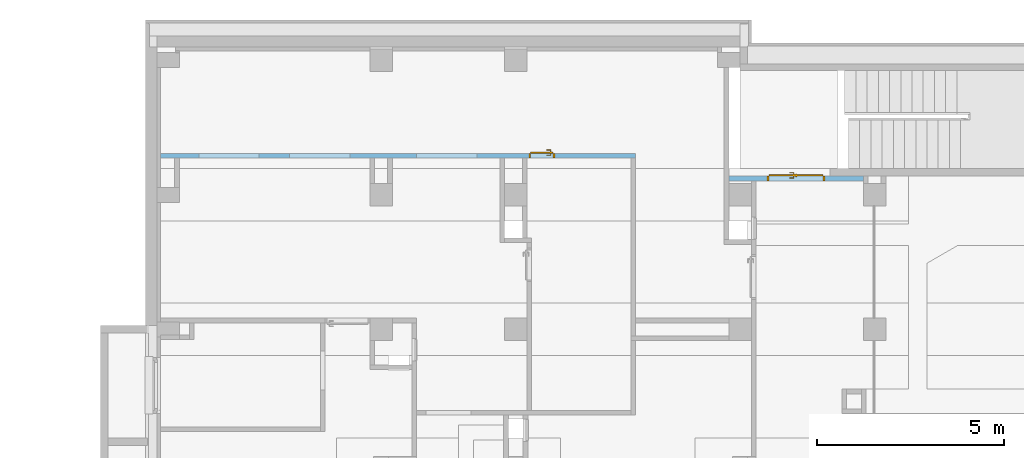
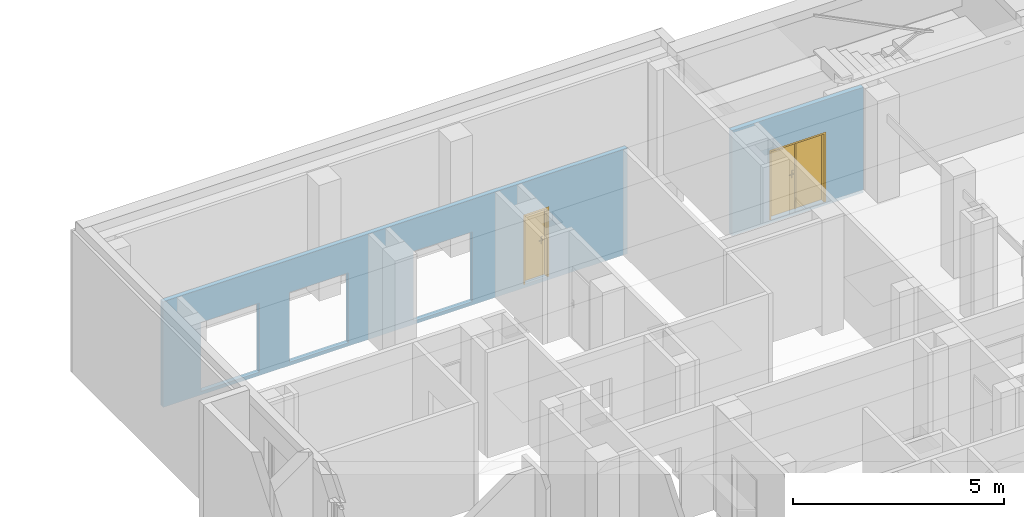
# One storey, part 71 of 84: 2 doors, 5 openings, plus 2 elements that do not belong to this part.
"""IFC4 building model written with IfcOpenShell, lengths in metres."""

from ifc_helpers import new_model, entity, si_unit, converted_unit, derived_unit, frame, frame_2d, origin, origin_with_axes, place, context, subcontext, project, spatial, polyline, rectangle, outline, extrude, closed_shell, open_shell, surface_model, source, transform, mapped, material, layer, layer_set, layer_usage, type_object, element, fill, save


model = new_model("IFC4")

# Units and contexts
model_context = context("Model", 3, precision=1e-05, world=origin())
body_context = subcontext(model_context, "Body", "Model", "MODEL_VIEW")
ifc_project = project(units=[si_unit("LENGTHUNIT", "METRE"), si_unit("AREAUNIT", "SQUARE_METRE"), si_unit("VOLUMEUNIT", "CUBIC_METRE"), si_unit("MASSUNIT", "GRAM", prefix="KILO"), converted_unit("PLANEANGLEUNIT", "DEGREE", entity("IfcPlaneAngleMeasure", 0.0174532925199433), si_unit("PLANEANGLEUNIT", "RADIAN"), dimensions=[0, 0, 0, 0, 0, 0, 0]), derived_unit("THERMALTRANSMITTANCEUNIT", [(si_unit("POWERUNIT", "WATT"), 1), (si_unit("THERMODYNAMICTEMPERATUREUNIT", "KELVIN"), -1), (si_unit("LENGTHUNIT", "METRE"), -2)]), derived_unit("VOLUMETRICFLOWRATEUNIT", [(si_unit("LENGTHUNIT", "METRE"), 3), (converted_unit("TIMEUNIT", "hour", entity("IfcTimeMeasure", 3600.0), si_unit("TIMEUNIT", "SECOND"), dimensions=[0, 0, 1, 0, 0, 0, 0]), -1), (si_unit("LENGTHUNIT", "METRE"), -1)])], contexts=[model_context])

# Site, building, storey
site_placement = place(None, origin())
site = spatial("IfcSite", under=ifc_project, at=site_placement, Name="3. ASŘ", CompositionType="ELEMENT")
building_placement = place(site_placement, origin())
building = spatial("IfcBuilding", under=site, at=building_placement, Name="Pavilon C", CompositionType="ELEMENT")
storey_placement = place(building_placement, frame((0.0, 0.0, -3.3)))
storey = spatial("IfcBuildingStorey", under=building, at=storey_placement, Name="Půdorys 1.PP", CompositionType="ELEMENT", Elevation=-3.3)

# Wall, opening, door
ifc_material_1 = material(Name="ZDIVO Z CDm")
ifc_layer_1 = layer(ifc_material_1, 0.125)
ifc_layer_set_1 = layer_set([ifc_layer_1])
ifc_layer_usage_1 = layer_usage(ifc_layer_set_1, "AXIS2", "POSITIVE", 0.0)
wall_1_placement = place(storey_placement, frame((43.65, 29.3, -0.1), z_axis=(0.0, 0.0, 1.0), x_axis=(-1.0, 0.0, 0.0)))
wall_1 = element("IfcWall", 1, at=wall_1_placement, inside=storey, material=ifc_layer_usage_1, Name="ZDIVO Z CDm", context=body_context, shape_type="SweptSolid", body=[
    extrude(rectangle(XDim=3.6, YDim=0.125, at=frame_2d((1.8, 0.0625), x_axis=(1.0, 0.0))), origin_with_axes(), (0.0, 0.0, 1.0), 3.05),
])
opening_1_placement = place(wall_1_placement, frame((1.025, 0.0, 0.1), z_axis=(0.0, 1.0, 0.0), x_axis=(0.0, 0.0, 1.0)))
opening_1 = element("IfcOpeningElement", 2, at=opening_1_placement, cuts=wall_1, Name="Dveřní otvor", ObjectType="Opening", context=body_context, shape_type="SweptSolid", body=[
    extrude(outline(polyline([(0.0, 1.55), (2.02, 1.55), (2.02, 0.0), (0.0, 0.0), (0.0, 1.55)])), origin_with_axes(), (0.0, 0.0, 1.0), 0.125),
])
door_type_1 = type_object("IfcDoorType", Name="D501", OperationType="NOTDEFINED", ParameterTakesPrecedence=False, PredefinedType="DOOR")
shared_shape_1 = source(origin_with_axes(), body_context, "Body", "SurfaceModel", [
    surface_model("IfcShellBasedSurfaceModel", [(0.0, 0.125, 2.02), (0.0, 0.125, -7.65404249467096e-18), (0.05, 0.125, -7.65404249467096e-18), (0.05, 0.125, 2.02), (0.0, 0.0, 7.65404249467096e-18), (0.0, 2.41584530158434e-16, 2.02), (0.05, 2.41584530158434e-16, 2.02), (0.05, 0.0, 7.65404249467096e-18)], [closed_shell([[[0, 1, 2, 3]], [[4, 5, 6, 7]], [[1, 0, 5, 4]], [[2, 1, 4, 7]], [[3, 2, 7, 6]], [[0, 3, 6, 5]]], orient=[[False], [False], [False], [False], [False], [False]])]),
    surface_model("IfcShellBasedSurfaceModel", [(1.5, 0.125, 2.02), (1.5, 0.125, -7.65404249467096e-18), (1.55, 0.125, -7.65404249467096e-18), (1.55, 0.125, 2.02), (1.5, 0.0, 7.65404249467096e-18), (1.5, 2.41584530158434e-16, 2.02), (1.55, 2.41584530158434e-16, 2.02), (1.55, 0.0, 7.65404249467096e-18)], [closed_shell([[[0, 1, 2, 3]], [[4, 5, 6, 7]], [[1, 0, 5, 4]], [[2, 1, 4, 7]], [[3, 2, 7, 6]], [[0, 3, 6, 5]]], orient=[[False], [False], [False], [False], [False], [False]])]),
    surface_model("IfcShellBasedSurfaceModel", [(0.05, 0.125, 2.02), (0.05, 0.125, 1.97), (1.5, 0.125, 1.97), (1.5, 0.125, 2.02), (0.05, 2.41584530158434e-16, 1.97), (0.05, 2.41584530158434e-16, 2.02), (1.5, 2.41584530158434e-16, 2.02), (1.5, 2.41584530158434e-16, 1.97)], [closed_shell([[[0, 1, 2, 3]], [[4, 5, 6, 7]], [[1, 0, 5, 4]], [[2, 1, 4, 7]], [[3, 2, 7, 6]], [[0, 3, 6, 5]]], orient=[[False], [False], [False], [False], [False], [False]])]),
    surface_model("IfcShellBasedSurfaceModel", [(0.05, 0.165, 1.97), (0.05, 0.165, -1.25526296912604e-17), (0.7745, 0.165, -1.25526296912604e-17), (0.7745, 0.165, 1.97), (0.05, 0.125, -7.65404249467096e-18), (0.05, 0.125, 1.97), (0.7745, 0.125, 1.97), (0.7745, 0.125, -7.65404249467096e-18)], [closed_shell([[[0, 1, 2, 3]], [[4, 5, 6, 7]], [[1, 0, 5, 4]], [[2, 1, 4, 7]], [[3, 2, 7, 6]], [[0, 3, 6, 5]]], orient=[[False], [False], [False], [False], [False], [False]])]),
    surface_model("IfcShellBasedSurfaceModel", [(0.7545, 0.165, 1.97), (0.7945, 0.165, 1.97), (0.7945, 0.165, -1.25526296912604e-17), (0.7545, 0.165, -1.25526296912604e-17), (0.7545, 0.185, -1.50019232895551e-17), (0.7945, 0.185, -1.50019232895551e-17), (0.7945, 0.185, 1.97), (0.7545, 0.185, 1.97)], [closed_shell([[[0, 1, 2, 3]], [[4, 5, 6, 7]], [[3, 4, 7, 0]], [[2, 5, 4, 3]], [[1, 6, 5, 2]], [[0, 7, 6, 1]]], orient=[[False], [False], [False], [False], [False], [False]])]),
    surface_model("IfcShellBasedSurfaceModel", [(0.6845, 0.125, 1.125), (0.6845, 0.125, 0.91), (0.7345, 0.125, 0.91), (0.7345, 0.125, 1.125), (0.6845, 0.115, 0.91), (0.6845, 0.115, 1.125), (0.7345, 0.115, 1.125), (0.7345, 0.115, 0.91)], [closed_shell([[[0, 1, 2, 3]], [[4, 5, 6, 7]], [[1, 0, 5, 4]], [[2, 1, 4, 7]], [[3, 2, 7, 6]], [[0, 3, 6, 5]]], orient=[[False], [False], [False], [False], [False], [False]])]),
    surface_model("IfcShellBasedSurfaceModel", [(0.7095, 0.115, 1.06), (0.7045, 0.115, 1.05866025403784), (0.700839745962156, 0.115, 1.055), (0.6995, 0.115, 1.05), (0.700839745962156, 0.115, 1.045), (0.7045, 0.115, 1.04133974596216), (0.7095, 0.115, 1.04), (0.7145, 0.115, 1.04133974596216), (0.718160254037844, 0.115, 1.045), (0.7195, 0.115, 1.05), (0.718160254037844, 0.115, 1.055), (0.7145, 0.115, 1.05866025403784), (0.7145, 0.0700000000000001, 1.05866025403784), (0.7095, 0.0750000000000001, 1.06), (0.718160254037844, 0.0663397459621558, 1.055), (0.7195, 0.0650000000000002, 1.05), (0.718160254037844, 0.0663397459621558, 1.045), (0.7145, 0.0700000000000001, 1.04133974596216), (0.7095, 0.0750000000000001, 1.04), (0.7045, 0.0800000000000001, 1.04133974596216), (0.700839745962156, 0.0836602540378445, 1.045), (0.6995, 0.0850000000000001, 1.05), (0.700839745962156, 0.0836602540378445, 1.055), (0.7045, 0.0800000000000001, 1.05866025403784), (0.5945, 0.0700000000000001, 1.05866025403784), (0.5945, 0.0750000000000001, 1.06), (0.5945, 0.0663397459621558, 1.055), (0.5945, 0.0650000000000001, 1.05), (0.5945, 0.0663397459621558, 1.045), (0.5945, 0.0700000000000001, 1.04133974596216), (0.5945, 0.0750000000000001, 1.04), (0.5945, 0.0800000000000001, 1.04133974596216), (0.5945, 0.0836602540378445, 1.045), (0.5945, 0.0850000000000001, 1.05), (0.5945, 0.0836602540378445, 1.055), (0.5945, 0.0800000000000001, 1.05866025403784)], [open_shell([[[0, 1, 2, 3, 4, 5, 6, 7, 8, 9, 10, 11]], [[0, 11, 12, 13]], [[11, 10, 14, 12]], [[10, 9, 15, 14]], [[9, 8, 16, 15]], [[8, 7, 17, 16]], [[7, 6, 18, 17]], [[6, 5, 19, 18]], [[5, 4, 20, 19]], [[4, 3, 21, 20]], [[3, 2, 22, 21]], [[2, 1, 23, 22]], [[1, 0, 13, 23]], [[13, 12, 24, 25]], [[12, 14, 26, 24]], [[14, 15, 27, 26]], [[15, 16, 28, 27]], [[16, 17, 29, 28]], [[17, 18, 30, 29]], [[18, 19, 31, 30]], [[19, 20, 32, 31]], [[20, 21, 33, 32]], [[21, 22, 34, 33]], [[22, 23, 35, 34]], [[23, 13, 25, 35]]], orient=[[False], [False], [False], [False], [False], [False], [False], [False], [False], [False], [False], [False], [False], [False], [False], [False], [False], [False], [False], [False], [False], [False], [False], [False], [False]])]),
    surface_model("IfcShellBasedSurfaceModel", [(0.6845, 0.165, 1.125), (0.7345, 0.165, 1.125), (0.7345, 0.165, 0.91), (0.6845, 0.165, 0.91), (0.6845, 0.175, 0.91), (0.7345, 0.175, 0.91), (0.7345, 0.175, 1.125), (0.6845, 0.175, 1.125)], [closed_shell([[[0, 1, 2, 3]], [[4, 5, 6, 7]], [[3, 4, 7, 0]], [[2, 5, 4, 3]], [[1, 6, 5, 2]], [[0, 7, 6, 1]]], orient=[[False], [False], [False], [False], [False], [False]])]),
    surface_model("IfcShellBasedSurfaceModel", [(0.7095, 0.175, 1.06), (0.7145, 0.175, 1.05866025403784), (0.718160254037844, 0.175, 1.055), (0.7195, 0.175, 1.05), (0.718160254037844, 0.175, 1.045), (0.7145, 0.175, 1.04133974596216), (0.7095, 0.175, 1.04), (0.7045, 0.175, 1.04133974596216), (0.700839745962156, 0.175, 1.045), (0.6995, 0.175, 1.05), (0.700839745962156, 0.175, 1.055), (0.7045, 0.175, 1.05866025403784), (0.7095, 0.215, 1.06), (0.7145, 0.22, 1.05866025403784), (0.718160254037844, 0.223660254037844, 1.055), (0.7195, 0.225, 1.05), (0.718160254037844, 0.223660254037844, 1.045), (0.7145, 0.22, 1.04133974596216), (0.7095, 0.215, 1.04), (0.7045, 0.21, 1.04133974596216), (0.700839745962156, 0.206339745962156, 1.045), (0.6995, 0.205, 1.05), (0.700839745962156, 0.206339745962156, 1.055), (0.7045, 0.21, 1.05866025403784), (0.5945, 0.215, 1.06), (0.5945, 0.22, 1.05866025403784), (0.5945, 0.223660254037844, 1.055), (0.5945, 0.225, 1.05), (0.5945, 0.223660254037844, 1.045), (0.5945, 0.22, 1.04133974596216), (0.5945, 0.215, 1.04), (0.5945, 0.21, 1.04133974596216), (0.5945, 0.206339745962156, 1.045), (0.5945, 0.205, 1.05), (0.5945, 0.206339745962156, 1.055), (0.5945, 0.21, 1.05866025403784)], [open_shell([[[0, 1, 2, 3, 4, 5, 6, 7, 8, 9, 10, 11]], [[0, 12, 13, 1]], [[1, 13, 14, 2]], [[2, 14, 15, 3]], [[3, 15, 16, 4]], [[4, 16, 17, 5]], [[5, 17, 18, 6]], [[6, 18, 19, 7]], [[7, 19, 20, 8]], [[8, 20, 21, 9]], [[9, 21, 22, 10]], [[10, 22, 23, 11]], [[11, 23, 12, 0]], [[12, 24, 25, 13]], [[13, 25, 26, 14]], [[14, 26, 27, 15]], [[15, 27, 28, 16]], [[16, 28, 29, 17]], [[17, 29, 30, 18]], [[18, 30, 31, 19]], [[19, 31, 32, 20]], [[20, 32, 33, 21]], [[21, 33, 34, 22]], [[22, 34, 35, 23]], [[23, 35, 24, 12]]], orient=[[False], [False], [False], [False], [False], [False], [False], [False], [False], [False], [False], [False], [False], [False], [False], [False], [False], [False], [False], [False], [False], [False], [False], [False], [False]])]),
    surface_model("IfcShellBasedSurfaceModel", [(0.7755, 0.165, 1.97), (0.7755, 0.165, -1.25526296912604e-17), (1.5, 0.165, -1.25526296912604e-17), (1.5, 0.165, 1.97), (0.7755, 0.125, -7.65404249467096e-18), (0.7755, 0.125, 1.97), (1.5, 0.125, 1.97), (1.5, 0.125, -7.65404249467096e-18)], [closed_shell([[[0, 1, 2, 3]], [[4, 5, 6, 7]], [[1, 0, 5, 4]], [[2, 1, 4, 7]], [[3, 2, 7, 6]], [[0, 3, 6, 5]]], orient=[[False], [False], [False], [False], [False], [False]])]),
    surface_model("IfcShellBasedSurfaceModel", [(0.7555, 0.125, 1.97), (0.7555, 0.125, -7.65404249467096e-18), (0.7955, 0.125, -7.65404249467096e-18), (0.7955, 0.125, 1.97), (0.7555, 0.105, -5.20474889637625e-18), (0.7555, 0.105, 1.97), (0.7955, 0.105, 1.97), (0.7955, 0.105, -5.20474889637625e-18)], [closed_shell([[[0, 1, 2, 3]], [[4, 5, 6, 7]], [[1, 0, 5, 4]], [[2, 1, 4, 7]], [[3, 2, 7, 6]], [[0, 3, 6, 5]]], orient=[[False], [False], [False], [False], [False], [False]])]),
])
door_1_placement = place(opening_1_placement, frame((0.0, 1.55, 0.125), z_axis=(1.0, 0.0, 0.0), x_axis=(0.0, -1.0, 2.44929359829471e-16)))
door_1 = element("IfcDoor", 3, at=door_1_placement, inside=storey, type_object=door_type_1, Name="D501", OverallHeight=2.02, OverallWidth=1.55, context=body_context, shape_type="MappedRepresentation", body=[
    mapped(shared_shape_1, transform((0.0, 0.0, 0.0), x_axis=(1.0, 0.0, 0.0), y_axis=(0.0, 1.0, 0.0), z_axis=(0.0, 0.0, 1.0), scale=1.0)),
])
fill(opening_1, door_1)

# Wall, openings, door
ifc_material_2 = material(Name="ZDIVO Z CDm")
ifc_layer_2 = layer(ifc_material_2, 0.125)
ifc_layer_set_2 = layer_set([ifc_layer_2])
ifc_layer_usage_2 = layer_usage(ifc_layer_set_2, "AXIS2", "POSITIVE", 0.0)
wall_2_placement = place(storey_placement, frame((37.555, 29.91, -0.1), z_axis=(0.0, 0.0, 1.0), x_axis=(-1.0, 0.0, 0.0)))
wall_2 = element("IfcWall", 4, at=wall_2_placement, inside=storey, material=ifc_layer_usage_2, Name="ZDIVO Z CDm", context=body_context, shape_type="SweptSolid", body=[
    extrude(rectangle(XDim=12.705, YDim=0.125, at=frame_2d((6.3525, 0.0625), x_axis=(1.0, 0.0))), origin_with_axes(), (0.0, 0.0, 1.0), 3.05),
])
opening_2_placement = place(wall_2_placement, frame((2.855, 0.125, 0.1), z_axis=(0.0, -1.0, 0.0), x_axis=(0.0, 0.0, 1.0)))
opening_2 = element("IfcOpeningElement", 5, at=opening_2_placement, cuts=wall_2, Name="Dveřní otvor", ObjectType="Opening", context=body_context, shape_type="SweptSolid", body=[
    extrude(outline(polyline([(0.0, 0.7), (2.02, 0.7), (2.02, 0.0), (0.0, 0.0), (0.0, 0.7)])), origin_with_axes(), (0.0, 0.0, 1.0), 0.125),
])
opening_3_placement = place(wall_2_placement, frame((10.075, 0.0, 0.1), z_axis=(0.0, 1.0, 0.0), x_axis=(0.0, 0.0, 1.0)))
element("IfcOpeningElement", 6, at=opening_3_placement, cuts=wall_2, Name="Dveřní otvor", ObjectType="Opening", context=body_context, shape_type="SweptSolid", body=[
    extrude(outline(polyline([(0.0, 1.6), (2.0, 1.6), (2.0, 0.0), (0.0, 0.0), (0.0, 1.6)])), origin_with_axes(), (0.0, 0.0, 1.0), 0.125),
])
opening_4_placement = place(wall_2_placement, frame((7.635, 0.0, 0.1), z_axis=(0.0, 1.0, 0.0), x_axis=(0.0, 0.0, 1.0)))
element("IfcOpeningElement", 7, at=opening_4_placement, cuts=wall_2, Name="Dveřní otvor", ObjectType="Opening", context=body_context, shape_type="SweptSolid", body=[
    extrude(outline(polyline([(0.0, 1.62), (2.02, 1.62), (2.02, 0.0), (0.0, 0.0), (0.0, 1.62)])), origin_with_axes(), (0.0, 0.0, 1.0), 0.125),
])
opening_5_placement = place(wall_2_placement, frame((4.245, 0.0, 0.1), z_axis=(0.0, 1.0, 0.0), x_axis=(0.0, 0.0, 1.0)))
element("IfcOpeningElement", 8, at=opening_5_placement, cuts=wall_2, Name="Dveřní otvor", ObjectType="Opening", context=body_context, shape_type="SweptSolid", body=[
    extrude(outline(polyline([(0.0, 1.61999999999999), (2.02, 1.61999999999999), (2.02, 0.0), (0.0, 0.0), (0.0, 1.61999999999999)])), origin_with_axes(), (0.0, 0.0, 1.0), 0.125),
])
door_type_2 = type_object("IfcDoorType", Name="D101", OperationType="NOTDEFINED", ParameterTakesPrecedence=False, PredefinedType="DOOR")
shared_shape_2 = source(origin_with_axes(), body_context, "Body", "SurfaceModel", [
    surface_model("IfcShellBasedSurfaceModel", [(0.0, 0.225, 2.02), (0.0, 0.225, -7.65404249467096e-18), (0.05, 0.225, -7.65404249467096e-18), (0.05, 0.225, 2.02), (0.0, 0.0999999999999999, 7.65404249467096e-18), (0.0, 0.1, 2.02), (0.05, 0.1, 2.02), (0.05, 0.0999999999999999, 7.65404249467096e-18)], [closed_shell([[[0, 1, 2, 3]], [[4, 5, 6, 7]], [[1, 0, 5, 4]], [[2, 1, 4, 7]], [[3, 2, 7, 6]], [[0, 3, 6, 5]]], orient=[[False], [False], [False], [False], [False], [False]])]),
    surface_model("IfcShellBasedSurfaceModel", [(0.65, 0.225, 2.02), (0.65, 0.225, -7.65404249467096e-18), (0.7, 0.225, -7.65404249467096e-18), (0.7, 0.225, 2.02), (0.65, 0.0999999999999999, 7.65404249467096e-18), (0.65, 0.1, 2.02), (0.7, 0.1, 2.02), (0.7, 0.0999999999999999, 7.65404249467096e-18)], [closed_shell([[[0, 1, 2, 3]], [[4, 5, 6, 7]], [[1, 0, 5, 4]], [[2, 1, 4, 7]], [[3, 2, 7, 6]], [[0, 3, 6, 5]]], orient=[[False], [False], [False], [False], [False], [False]])]),
    surface_model("IfcShellBasedSurfaceModel", [(0.05, 0.225, 2.02), (0.05, 0.225, 1.97), (0.65, 0.225, 1.97), (0.65, 0.225, 2.02), (0.05, 0.1, 1.97), (0.05, 0.1, 2.02), (0.65, 0.1, 2.02), (0.65, 0.1, 1.97)], [closed_shell([[[0, 1, 2, 3]], [[4, 5, 6, 7]], [[1, 0, 5, 4]], [[2, 1, 4, 7]], [[3, 2, 7, 6]], [[0, 3, 6, 5]]], orient=[[False], [False], [False], [False], [False], [False]])]),
    surface_model("IfcShellBasedSurfaceModel", [(0.05, 0.1, 1.97), (0.05, 0.0999999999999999, 7.65404249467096e-18), (0.65, 0.0999999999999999, 7.65404249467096e-18), (0.65, 0.1, 1.97), (0.05, 0.0599999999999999, 1.25526296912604e-17), (0.05, 0.0600000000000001, 1.97), (0.65, 0.0600000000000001, 1.97), (0.65, 0.0599999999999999, 1.25526296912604e-17)], [closed_shell([[[0, 1, 2, 3]], [[4, 5, 6, 7]], [[1, 0, 5, 4]], [[2, 1, 4, 7]], [[3, 2, 7, 6]], [[0, 3, 6, 5]]], orient=[[False], [False], [False], [False], [False], [False]])]),
    surface_model("IfcShellBasedSurfaceModel", [(0.09, 0.06, 1.125), (0.09, 0.06, 0.91), (0.14, 0.06, 0.91), (0.14, 0.06, 1.125), (0.09, 0.05, 0.91), (0.09, 0.05, 1.125), (0.14, 0.05, 1.125), (0.14, 0.05, 0.91)], [closed_shell([[[0, 1, 2, 3]], [[4, 5, 6, 7]], [[1, 0, 5, 4]], [[2, 1, 4, 7]], [[3, 2, 7, 6]], [[0, 3, 6, 5]]], orient=[[False], [False], [False], [False], [False], [False]])]),
    surface_model("IfcShellBasedSurfaceModel", [(0.115, 0.05, 1.06), (0.11, 0.05, 1.05866025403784), (0.106339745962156, 0.05, 1.055), (0.105, 0.05, 1.05), (0.106339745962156, 0.05, 1.045), (0.11, 0.05, 1.04133974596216), (0.115, 0.05, 1.04), (0.12, 0.05, 1.04133974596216), (0.123660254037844, 0.05, 1.045), (0.125, 0.05, 1.05), (0.123660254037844, 0.05, 1.055), (0.12, 0.05, 1.05866025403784), (0.115, 0.01, 1.06), (0.11, 0.00500000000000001, 1.05866025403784), (0.106339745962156, 0.00133974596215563, 1.055), (0.105, 2.8421709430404e-17, 1.05), (0.106339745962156, 0.00133974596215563, 1.045), (0.11, 0.00500000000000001, 1.04133974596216), (0.115, 0.01, 1.04), (0.12, 0.015, 1.04133974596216), (0.123660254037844, 0.0186602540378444, 1.045), (0.125, 0.02, 1.05), (0.123660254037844, 0.0186602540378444, 1.055), (0.12, 0.015, 1.05866025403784), (0.23, 0.01, 1.06), (0.23, 0.005, 1.05866025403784), (0.23, 0.00133974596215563, 1.055), (0.23, 0.0, 1.05), (0.23, 0.00133974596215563, 1.045), (0.23, 0.005, 1.04133974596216), (0.23, 0.01, 1.04), (0.23, 0.015, 1.04133974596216), (0.23, 0.0186602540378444, 1.045), (0.23, 0.02, 1.05), (0.23, 0.0186602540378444, 1.055), (0.23, 0.015, 1.05866025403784)], [open_shell([[[0, 1, 2, 3, 4, 5, 6, 7, 8, 9, 10, 11]], [[0, 12, 13, 1]], [[1, 13, 14, 2]], [[2, 14, 15, 3]], [[3, 15, 16, 4]], [[4, 16, 17, 5]], [[5, 17, 18, 6]], [[6, 18, 19, 7]], [[7, 19, 20, 8]], [[8, 20, 21, 9]], [[9, 21, 22, 10]], [[10, 22, 23, 11]], [[11, 23, 12, 0]], [[12, 24, 25, 13]], [[13, 25, 26, 14]], [[14, 26, 27, 15]], [[15, 27, 28, 16]], [[16, 28, 29, 17]], [[17, 29, 30, 18]], [[18, 30, 31, 19]], [[19, 31, 32, 20]], [[20, 32, 33, 21]], [[21, 33, 34, 22]], [[22, 34, 35, 23]], [[23, 35, 24, 12]]], orient=[[False], [False], [False], [False], [False], [False], [False], [False], [False], [False], [False], [False], [False], [False], [False], [False], [False], [False], [False], [False], [False], [False], [False], [False], [False]])]),
    surface_model("IfcShellBasedSurfaceModel", [(0.09, 0.1, 1.125), (0.14, 0.1, 1.125), (0.14, 0.1, 0.91), (0.09, 0.1, 0.91), (0.09, 0.11, 0.91), (0.14, 0.11, 0.91), (0.14, 0.11, 1.125), (0.09, 0.11, 1.125)], [closed_shell([[[0, 1, 2, 3]], [[4, 5, 6, 7]], [[3, 4, 7, 0]], [[2, 5, 4, 3]], [[1, 6, 5, 2]], [[0, 7, 6, 1]]], orient=[[False], [False], [False], [False], [False], [False]])]),
    surface_model("IfcShellBasedSurfaceModel", [(0.115, 0.11, 1.06), (0.12, 0.11, 1.05866025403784), (0.123660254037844, 0.11, 1.055), (0.125, 0.11, 1.05), (0.123660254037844, 0.11, 1.045), (0.12, 0.11, 1.04133974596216), (0.115, 0.11, 1.04), (0.11, 0.11, 1.04133974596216), (0.106339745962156, 0.11, 1.045), (0.105, 0.11, 1.05), (0.106339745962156, 0.11, 1.055), (0.11, 0.11, 1.05866025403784), (0.11, 0.155, 1.05866025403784), (0.115, 0.15, 1.06), (0.106339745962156, 0.158660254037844, 1.055), (0.105, 0.16, 1.05), (0.106339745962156, 0.158660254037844, 1.045), (0.11, 0.155, 1.04133974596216), (0.115, 0.15, 1.04), (0.12, 0.145, 1.04133974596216), (0.123660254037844, 0.141339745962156, 1.045), (0.125, 0.14, 1.05), (0.123660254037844, 0.141339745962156, 1.055), (0.12, 0.145, 1.05866025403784), (0.23, 0.155, 1.05866025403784), (0.23, 0.15, 1.06), (0.23, 0.158660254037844, 1.055), (0.23, 0.16, 1.05), (0.23, 0.158660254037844, 1.045), (0.23, 0.155, 1.04133974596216), (0.23, 0.15, 1.04), (0.23, 0.145, 1.04133974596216), (0.23, 0.141339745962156, 1.045), (0.23, 0.14, 1.05), (0.23, 0.141339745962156, 1.055), (0.23, 0.145, 1.05866025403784)], [open_shell([[[0, 1, 2, 3, 4, 5, 6, 7, 8, 9, 10, 11]], [[0, 11, 12, 13]], [[11, 10, 14, 12]], [[10, 9, 15, 14]], [[9, 8, 16, 15]], [[8, 7, 17, 16]], [[7, 6, 18, 17]], [[6, 5, 19, 18]], [[5, 4, 20, 19]], [[4, 3, 21, 20]], [[3, 2, 22, 21]], [[2, 1, 23, 22]], [[1, 0, 13, 23]], [[13, 12, 24, 25]], [[12, 14, 26, 24]], [[14, 15, 27, 26]], [[15, 16, 28, 27]], [[16, 17, 29, 28]], [[17, 18, 30, 29]], [[18, 19, 31, 30]], [[19, 20, 32, 31]], [[20, 21, 33, 32]], [[21, 22, 34, 33]], [[22, 23, 35, 34]], [[23, 13, 25, 35]]], orient=[[False], [False], [False], [False], [False], [False], [False], [False], [False], [False], [False], [False], [False], [False], [False], [False], [False], [False], [False], [False], [False], [False], [False], [False], [False]])]),
])
door_2_placement = place(opening_2_placement, frame((0.0, 0.7, 0.225), z_axis=(1.0, 0.0, 0.0), x_axis=(0.0, -1.0, 1.22464679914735e-16)))
door_2 = element("IfcDoor", 9, at=door_2_placement, inside=storey, type_object=door_type_2, Name="D101", OverallHeight=2.02, OverallWidth=0.7, context=body_context, shape_type="MappedRepresentation", body=[
    mapped(shared_shape_2, transform((0.0, 0.0, 0.0), x_axis=(1.0, 0.0, 0.0), y_axis=(0.0, 1.0, 0.0), z_axis=(0.0, 0.0, 1.0), scale=1.0)),
])
fill(opening_2, door_2)

save(model, "model.ifc")
